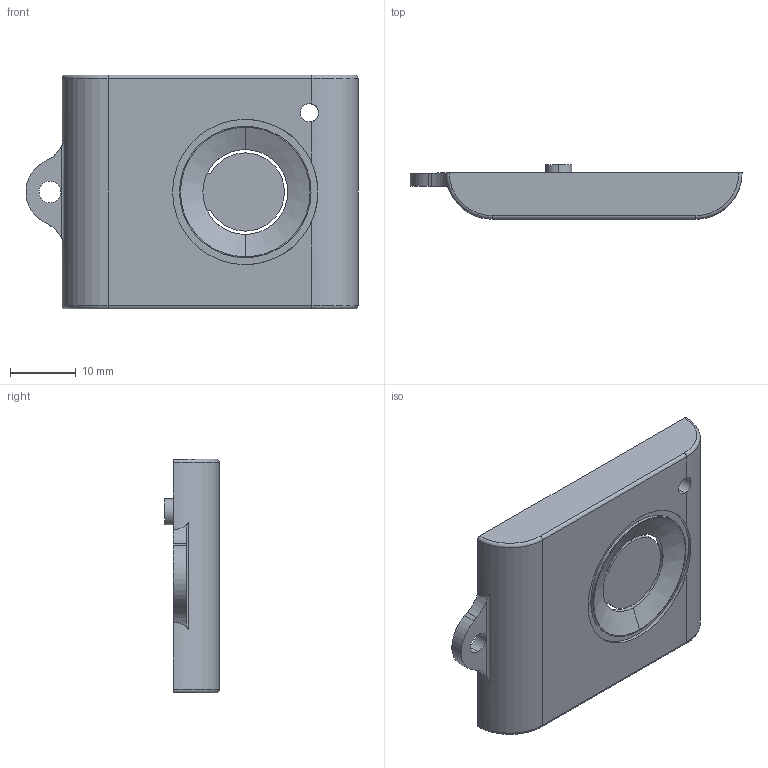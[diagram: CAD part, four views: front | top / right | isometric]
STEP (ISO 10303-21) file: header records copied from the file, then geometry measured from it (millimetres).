
FILE_DESCRIPTION (( 'STEP AP214' ), '1' );
FILE_NAME ('Tapa PP46.STEP', '2016-10-09T09:16:35', ( 'aaa' ), ( '' ), 'SwSTEP 2.0', 'SolidWorks 2013', '' );
FILE_SCHEMA (( 'AUTOMOTIVE_DESIGN' ));
Length unit declared in the file: millimetre
Products named in the file (1): Tapa PP46
Bounding box: 50.48 x 8.25 x 35.5 mm (x, y, z)
Volume: 3930.2 mm3; surface area: 4991.9 mm2
Topology: 1 solids, 1 shells, 58 faces, 150 edges, 98 vertices
Faces by surface type: cylinder 29, plane 23, torus 4, cone 2
Entity records: 1902 total; most frequent: CARTESIAN_POINT 380, DIRECTION 332, ORIENTED_EDGE 300, EDGE_CURVE 150, AXIS2_PLACEMENT_3D 130, VERTEX_POINT 98, VECTOR 72, LINE 72
